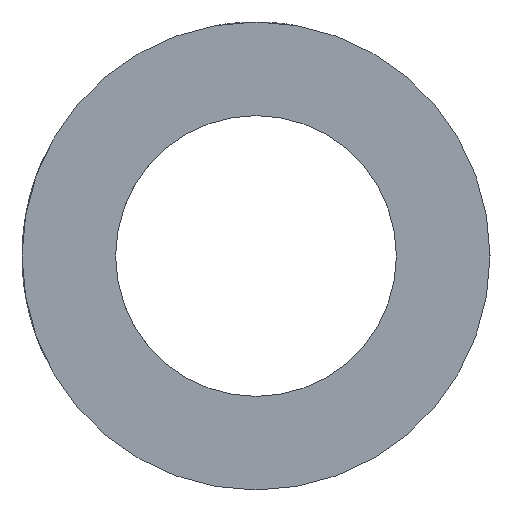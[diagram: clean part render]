
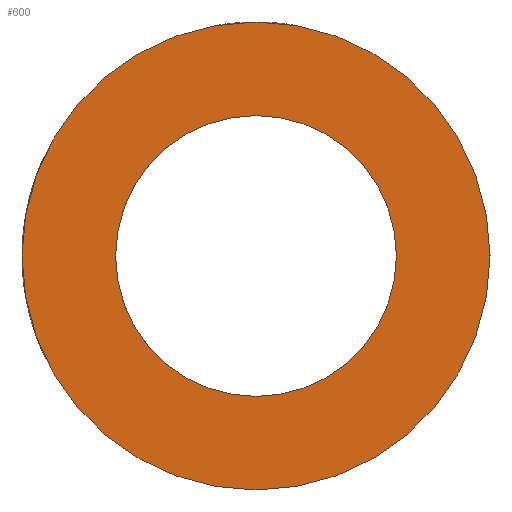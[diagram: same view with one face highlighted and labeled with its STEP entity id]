
A CAD part, left-side view. The second image highlights one B-rep face of the part: STEP entity #600.
In plain terms, the highlighted planar face has unit normal (-1, 0, 0).
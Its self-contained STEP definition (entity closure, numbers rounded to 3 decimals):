
#206=CARTESIAN_POINT('Vertex',(-63.,-4.763,0.)) ;
#209=CARTESIAN_POINT('Axis2P3D Location',(-63.,0.,0.)) ;
#213=CARTESIAN_POINT('Vertex',(-63.,4.763,0.)) ;
#428=CARTESIAN_POINT('Vertex',(-63.,-7.938,0.)) ;
#431=CARTESIAN_POINT('Axis2P3D Location',(-63.,0.,0.)) ;
#435=CARTESIAN_POINT('Vertex',(-63.,7.938,0.)) ;
#577=CARTESIAN_POINT('Axis2P3D Location',(-63.,0.,0.)) ;
#582=CARTESIAN_POINT('Axis2P3D Location',(-63.,0.,0.)) ;
#591=CARTESIAN_POINT('Axis2P3D Location',(-63.,0.,0.)) ;
#210=DIRECTION('Axis2P3D Direction',(1.,0.,0.)) ;
#432=DIRECTION('Axis2P3D Direction',(1.,0.,0.)) ;
#578=DIRECTION('Axis2P3D Direction',(1.,0.,0.)) ;
#579=DIRECTION('Axis2P3D XDirection',(0.,1.,0.)) ;
#583=DIRECTION('Axis2P3D Direction',(1.,0.,0.)) ;
#592=DIRECTION('Axis2P3D Direction',(1.,0.,0.)) ;
#211=AXIS2_PLACEMENT_3D('Circle Axis2P3D',#209,#210,$) ;
#433=AXIS2_PLACEMENT_3D('Circle Axis2P3D',#431,#432,$) ;
#580=AXIS2_PLACEMENT_3D('Plane Axis2P3D',#577,#578,#579) ;
#584=AXIS2_PLACEMENT_3D('Circle Axis2P3D',#582,#583,$) ;
#593=AXIS2_PLACEMENT_3D('Circle Axis2P3D',#591,#592,$) ;
#212=CIRCLE('generated circle',#211,4.763) ;
#434=CIRCLE('generated circle',#433,7.938) ;
#585=CIRCLE('generated circle',#584,7.938) ;
#594=CIRCLE('generated circle',#593,4.763) ;
#581=PLANE('',#580) ;
#599=FACE_BOUND('',#596,.T.) ;
#215=EDGE_CURVE('',#214,#207,#212,.T.) ;
#437=EDGE_CURVE('',#429,#436,#434,.T.) ;
#586=EDGE_CURVE('',#436,#429,#585,.T.) ;
#595=EDGE_CURVE('',#207,#214,#594,.T.) ;
#587=EDGE_LOOP('',(#588,#589)) ;
#596=EDGE_LOOP('',(#597,#598)) ;
#588=ORIENTED_EDGE('',*,*,#437,.F.) ;
#589=ORIENTED_EDGE('',*,*,#586,.F.) ;
#597=ORIENTED_EDGE('',*,*,#595,.T.) ;
#598=ORIENTED_EDGE('',*,*,#215,.T.) ;
#207=VERTEX_POINT('',#206) ;
#214=VERTEX_POINT('',#213) ;
#429=VERTEX_POINT('',#428) ;
#436=VERTEX_POINT('',#435) ;
#600=ADVANCED_FACE('PartBody',(#590,#599),#581,.F.) ;
#590=FACE_OUTER_BOUND('',#587,.T.) ;
